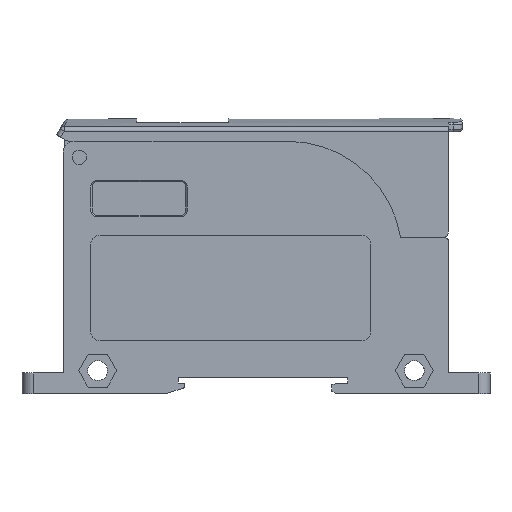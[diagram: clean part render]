
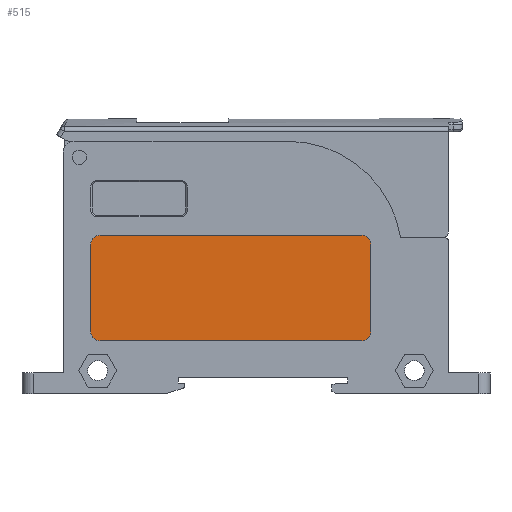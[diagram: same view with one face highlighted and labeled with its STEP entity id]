
A CAD part, left-side view. The second image highlights one B-rep face of the part: STEP entity #515.
In plain terms, the highlighted planar face has unit normal (-1, 0, 0).
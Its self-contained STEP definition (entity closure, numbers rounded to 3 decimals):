
#308=PLANE('',#5167);
#515=ADVANCED_FACE('',(#813),#308,.T.);
#813=FACE_OUTER_BOUND('',#1077,.T.);
#1077=EDGE_LOOP('',(#2921,#2922,#2923,#2924,#2925,#2926,#2927,#2928));
#1522=LINE('',#7387,#2040);
#1531=LINE('',#7418,#2049);
#1532=LINE('',#7422,#2050);
#1533=LINE('',#7426,#2051);
#2040=VECTOR('',#5994,1.);
#2049=VECTOR('',#6031,1.);
#2050=VECTOR('',#6036,1.);
#2051=VECTOR('',#6039,1.);
#2921=ORIENTED_EDGE('',*,*,#4514,.T.);
#2922=ORIENTED_EDGE('',*,*,#4515,.T.);
#2923=ORIENTED_EDGE('',*,*,#4516,.T.);
#2924=ORIENTED_EDGE('',*,*,#4517,.T.);
#2925=ORIENTED_EDGE('',*,*,#4518,.F.);
#2926=ORIENTED_EDGE('',*,*,#4500,.T.);
#2927=ORIENTED_EDGE('',*,*,#4498,.F.);
#2928=ORIENTED_EDGE('',*,*,#4510,.T.);
#3933=VERTEX_POINT('',#7386);
#3934=VERTEX_POINT('',#7388);
#3935=VERTEX_POINT('',#7392);
#3939=VERTEX_POINT('',#7410);
#3941=VERTEX_POINT('',#7417);
#3942=VERTEX_POINT('',#7421);
#3943=VERTEX_POINT('',#7423);
#3944=VERTEX_POINT('',#7425);
#4498=EDGE_CURVE('',#3933,#3934,#1522,.T.);
#4500=EDGE_CURVE('',#3935,#3934,#4909,.T.);
#4510=EDGE_CURVE('',#3933,#3939,#4914,.T.);
#4514=EDGE_CURVE('',#3939,#3941,#1531,.T.);
#4515=EDGE_CURVE('',#3941,#3942,#4916,.T.);
#4516=EDGE_CURVE('',#3942,#3943,#1532,.T.);
#4517=EDGE_CURVE('',#3943,#3944,#4917,.T.);
#4518=EDGE_CURVE('',#3935,#3944,#1533,.T.);
#4909=CIRCLE('',#5151,2.);
#4914=CIRCLE('',#5161,2.);
#4916=CIRCLE('',#5165,2.);
#4917=CIRCLE('',#5166,2.);
#5151=AXIS2_PLACEMENT_3D('',#7391,#5998,#5999);
#5161=AXIS2_PLACEMENT_3D('',#7411,#6023,#6024);
#5165=AXIS2_PLACEMENT_3D('',#7420,#6034,#6035);
#5166=AXIS2_PLACEMENT_3D('',#7424,#6037,#6038);
#5167=AXIS2_PLACEMENT_3D('',#7427,#6040,#6041);
#5994=DIRECTION('',(0.,0.,-1.));
#5998=DIRECTION('',(-1.,0.,0.));
#5999=DIRECTION('',(0.,0.,1.));
#6023=DIRECTION('',(-1.,0.,0.));
#6024=DIRECTION('',(0.,0.,1.));
#6031=DIRECTION('',(0.,1.,0.));
#6034=DIRECTION('',(-1.,0.,0.));
#6035=DIRECTION('',(0.,0.,1.));
#6036=DIRECTION('',(0.,0.,-1.));
#6037=DIRECTION('',(-1.,0.,0.));
#6038=DIRECTION('',(0.,0.,1.));
#6039=DIRECTION('',(0.,1.,0.));
#6040=DIRECTION('',(-1.,0.,0.));
#6041=DIRECTION('',(0.,0.,1.));
#7386=CARTESIAN_POINT('',(10.45,10.5,18.05));
#7387=CARTESIAN_POINT('',(10.45,10.5,1.));
#7388=CARTESIAN_POINT('',(10.45,10.5,-0.95));
#7391=CARTESIAN_POINT('',(10.45,12.5,-0.95));
#7392=CARTESIAN_POINT('',(10.45,12.5,-2.95));
#7410=CARTESIAN_POINT('',(10.45,12.5,20.05));
#7411=CARTESIAN_POINT('',(10.45,12.5,18.05));
#7417=CARTESIAN_POINT('',(10.45,69.5,20.05));
#7418=CARTESIAN_POINT('',(10.45,38.,20.05));
#7420=CARTESIAN_POINT('',(10.45,69.5,18.05));
#7421=CARTESIAN_POINT('',(10.45,71.5,18.05));
#7422=CARTESIAN_POINT('',(10.45,71.5,1.));
#7423=CARTESIAN_POINT('',(10.45,71.5,-0.95));
#7424=CARTESIAN_POINT('',(10.45,69.5,-0.95));
#7425=CARTESIAN_POINT('',(10.45,69.5,-2.95));
#7426=CARTESIAN_POINT('',(10.45,38.,-2.95));
#7427=CARTESIAN_POINT('',(10.45,38.,1.));
